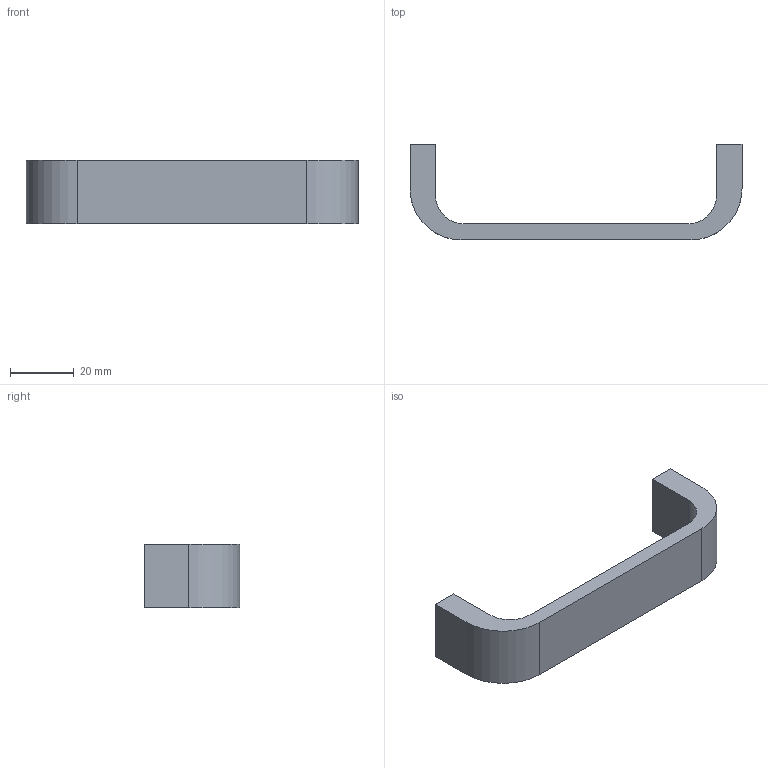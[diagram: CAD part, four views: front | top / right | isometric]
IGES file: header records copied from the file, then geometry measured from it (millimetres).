
Start section: Data from Parasolid IGES Translator 20.0.26, Copyright(c) 2006 Siemens P LM Software. All Rights Reserved.
Global section: file name: 9266566.igs; native system: By Siemens PLM Incorporated; preprocessor: XPlus GENERIC/IGES 20.0.26; author: Noname; organization: Noname; date: 20200630.121858; units: millimetre
Bounding box: 104 x 30 x 20 mm (x, y, z)
Surface area: 7783.9 mm2 (no closed solid volume)
Topology: 0 solids, 0 shells, 18 faces, 84 edges, 82 vertices
Faces by surface type: extrusion 12, revolution 6
